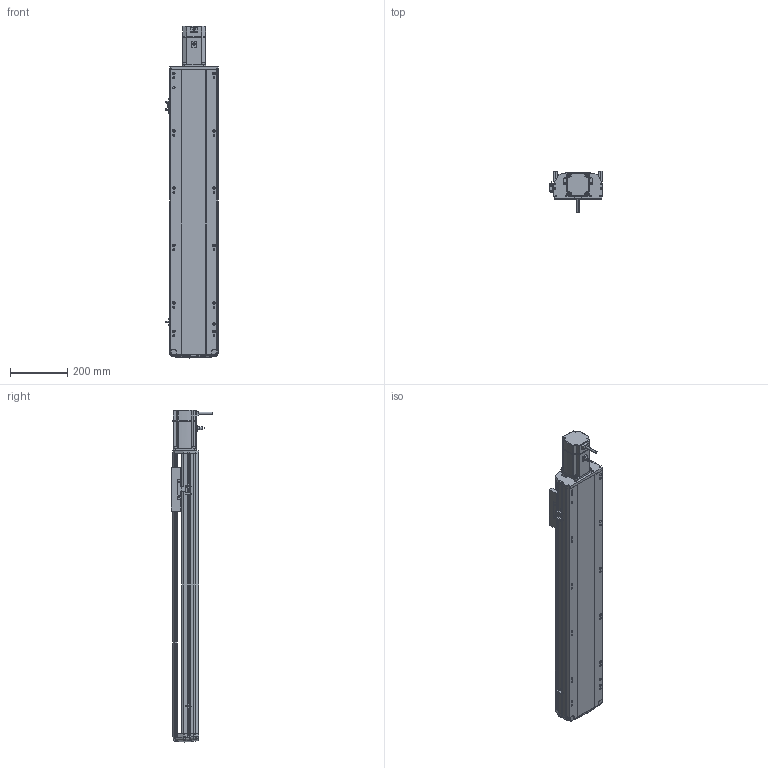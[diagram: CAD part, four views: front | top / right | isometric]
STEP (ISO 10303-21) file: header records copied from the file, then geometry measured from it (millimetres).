
FILE_DESCRIPTION (( 'STEP AP214' ), '1' );
FILE_NAME ('RTH17-XX-750-E-M75-C4.STEP', '2025-10-24T09:39:01', ( '' ), ( '' ), 'SwSTEP 2.0', 'SolidWorks 2018', '' );
FILE_SCHEMA (( 'AUTOMOTIVE_DESIGN' ));
Length unit declared in the file: millimetre
Products named in the file (9): N_RTH17-E-007上盖^RTH17-XX-XX-E-M75-C4（方程式）; N_RTH17-GY-001P^RTH17-XX-XX-E-M75-C4（方程式）; N_M75^RTH17-XX-XX-E-M75-C4（方程式）; RTH17-XX-750-E-M75-C4; N_RTH17-E-008-P75电机板^RTH17-XX-XX-E-M75-C4（方程式）; N_RTH-L-012 感应片(外置)^RTH17-XX-XX-E-M75-C4（方程式）; N_RTH17-E-004丝杆螺母连接座^RTH17-XX-XX-E-M75-C4（方程式）; N_OMRON EE-SX672 換覜ん^RTH17-XX-XX-E-M75-C4ㄗ源最宒ㄘ; N_RTH17-E-011底座^RTH17-XX-XX-E-M75-C4（方程式）
Assembly tree (10 placements, depth 2):
  RTH17-XX-750-E-M75-C4
    N_RTH17-E-011底座^RTH17-XX-XX-E-M75-C4（方程式）
    N_RTH17-E-007上盖^RTH17-XX-XX-E-M75-C4（方程式）
    N_M75^RTH17-XX-XX-E-M75-C4（方程式）
    N_RTH17-E-008-P75电机板^RTH17-XX-XX-E-M75-C4（方程式）
    N_OMRON EE-SX672 換覜ん^RTH17-XX-XX-E-M75-C4ㄗ源最宒ㄘ  x3
    N_RTH-L-012 感应片(外置)^RTH17-XX-XX-E-M75-C4（方程式）
    N_RTH17-E-004丝杆螺母连接座^RTH17-XX-XX-E-M75-C4（方程式）
    N_RTH17-GY-001P^RTH17-XX-XX-E-M75-C4（方程式）
Bounding box: 183.5 x 145.7 x 1158.19 mm (x, y, z)
Volume: 8518751.4 mm3; surface area: 1119151.4 mm2
Topology: 9 solids, 11 shells, 1780 faces, 4929 edges, 3194 vertices
Faces by surface type: plane 824, cylinder 542, bspline 377, cone 28, torus 9
Entity records: 52534 total; most frequent: CARTESIAN_POINT 20663, ORIENTED_EDGE 6882, DIRECTION 5777, EDGE_CURVE 3445, VERTEX_POINT 2230, AXIS2_PLACEMENT_3D 1967, VECTOR 1843, LINE 1843
